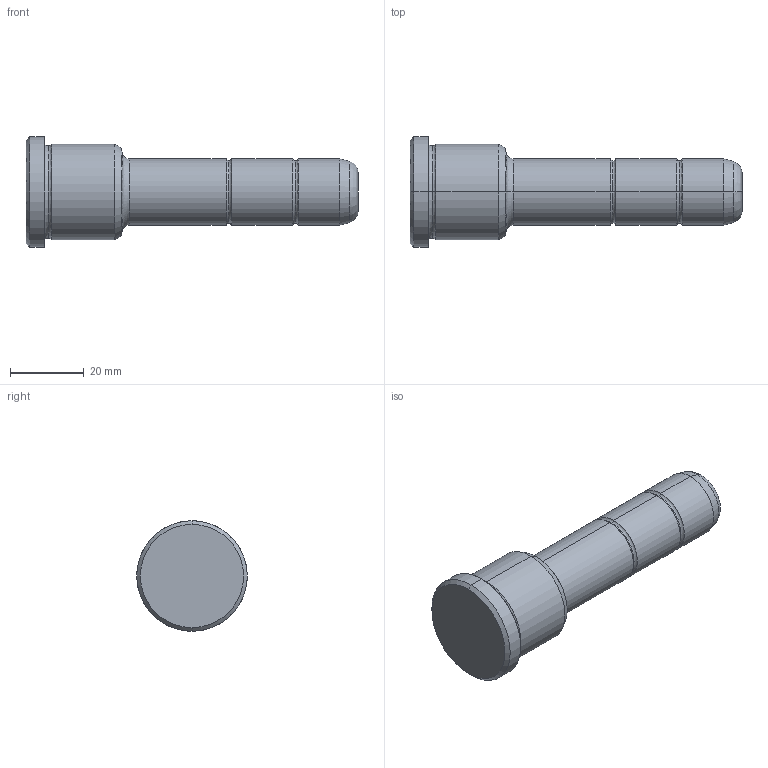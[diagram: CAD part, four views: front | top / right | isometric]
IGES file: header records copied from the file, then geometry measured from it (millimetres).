
Start section: START RECORD GO HERE.
Global section: file name: 351-18X26X90.igs; native system: DASSAULT SYSTEMES CATIA V5 R20 - www.3ds.com; preprocessor: CATIA Version 5 Release 20 ; author: Utente; organization: NB04-ASUS; date: 20210819.144733; units: millimetre
Bounding box: 90 x 30 x 30 mm (x, y, z)
Surface area: 6989 mm2 (no closed solid volume)
Topology: 0 solids, 0 shells, 36 faces, 204 edges, 204 vertices
Faces by surface type: revolution 32, plane 4
